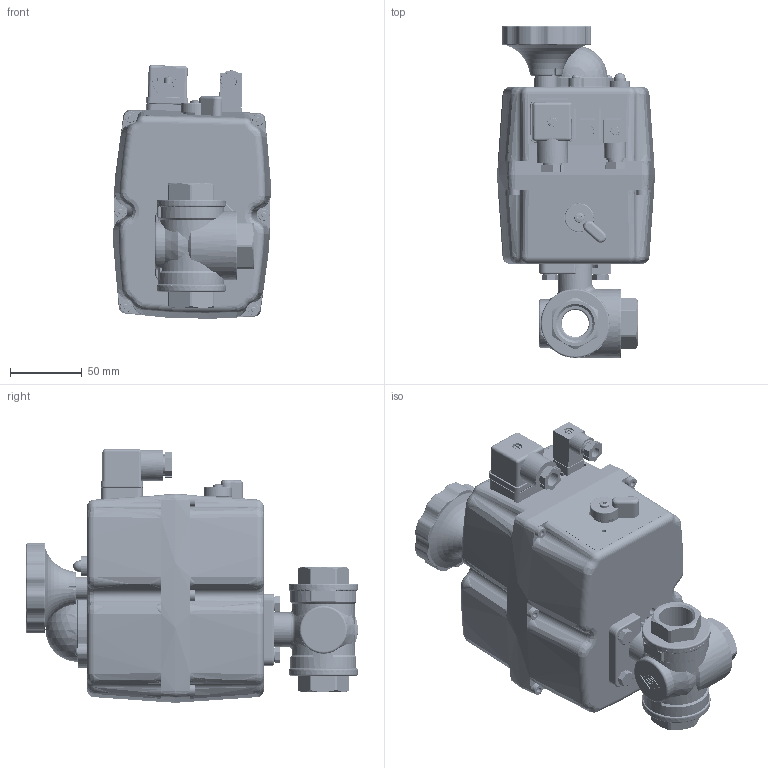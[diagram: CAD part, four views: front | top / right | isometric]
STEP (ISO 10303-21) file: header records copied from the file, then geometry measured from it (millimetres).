
FILE_DESCRIPTION((''),'2;1');
FILE_NAME('M:\3D-Files nach Lieferanten\TA-Produkte\angetriebene Armaturen\Register 9\RB3500_3600\3500020T2S20.stp','2022-01-31T13:02:10',('RL'),(''),'Autodesk Inventor 2012','Autodesk Inventor 2012','');
FILE_SCHEMA(('AUTOMOTIVE_DESIGN { 1 0 10303 214 1 1 1 1 }'));
Length unit declared in the file: millimetre
Products named in the file (1): 3500020T2S20
Bounding box: 109.79 x 230.95 x 176.54 mm (x, y, z)
Volume: 616818.2 mm3; surface area: 278620.7 mm2
Topology: 2 solids, 46 shells, 3296 faces, 8293 edges, 5221 vertices
Faces by surface type: plane 1274, cylinder 989, torus 438, bspline 381, cone 163, sphere 51
Full cylindrical faces by diameter (mm): 1.5 x10, 1.6 x6, 2.2 x5, 2.5 x4, 3 x31, 3.5 x39, 3.9 x2, 3.96 x8, 4 x26, 4.25 x6, 4.5 x1, 4.7 x4, 4.9 x2, 5 x10, 5.7 x3, 6 x6, 6.4 x4, 6.5 x4, 6.8 x11, 7 x6, 7.5 x7, 8 x14, 8.05 x1, 8.1 x1, 8.5 x4, 8.9 x3, 9 x2, 10 x8, 10.2 x1, 10.5 x1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
Entity records: 160770 total; most frequent: CARTESIAN_POINT 85762, DIRECTION 15682, ORIENTED_EDGE 15022, EDGE_CURVE 7511, AXIS2_PLACEMENT_3D 6270, VERTEX_POINT 4969, EDGE_LOOP 4007, FACE_OUTER_BOUND 3259
